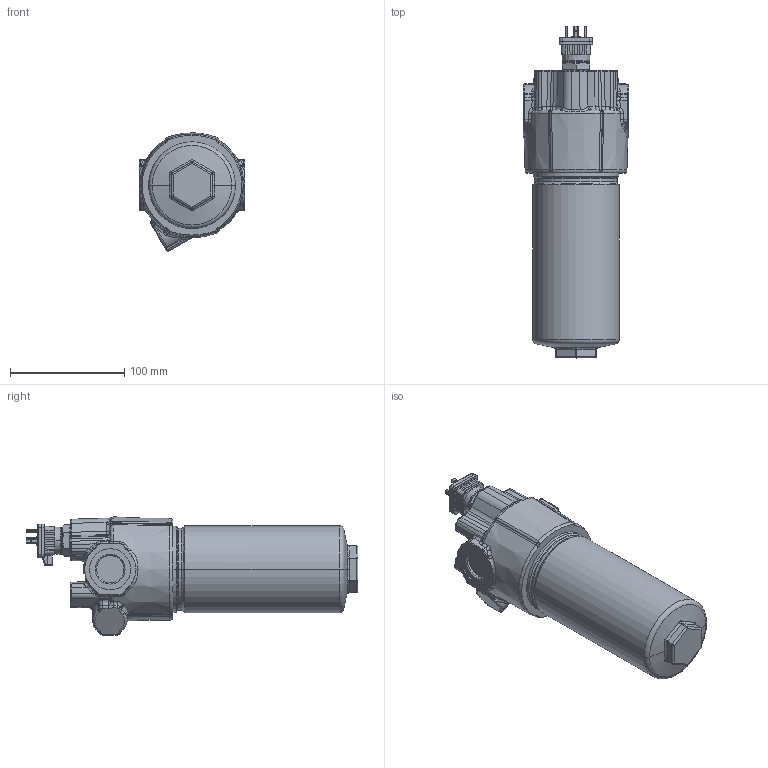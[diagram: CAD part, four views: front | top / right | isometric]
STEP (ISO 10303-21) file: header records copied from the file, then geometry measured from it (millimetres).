
FILE_DESCRIPTION((''),'2;1');
FILE_NAME('__MERGE_','2019-05-23T',('a.budig'),(''),'PRO/ENGINEER BY PARAMETRIC TECHNOLOGY CORPORATION, 2015110','PRO/ENGINEER BY PARAMETRIC TECHNOLOGY CORPORATION, 2015110','');
FILE_SCHEMA(('AUTOMOTIVE_DESIGN { 1 0 10303 214 1 1 1 1 }'));
Products named in the file (1): __MERGE_
Bounding box: 92 x 290.7 x 103.67 mm (x, y, z)
Volume: 1227660.2 mm3; surface area: 84211.4 mm2
Topology: 1 solids, 1 shells, 1283 faces, 3427 edges, 2141 vertices
Faces by surface type: plane 380, cylinder 347, bspline 235, extrusion 113, torus 100, cone 72, sphere 36
Entity records: 61371 total; most frequent: CARTESIAN_POINT 23217, ORIENTED_EDGE 6758, DIRECTION 4758, EDGE_CURVE 3379, VERTEX_POINT 2141, AXIS2_PLACEMENT_3D 1770, B_SPLINE_CURVE_WITH_KNOTS 1552, PRESENTATION_STYLE_ASSIGNMENT 1396
